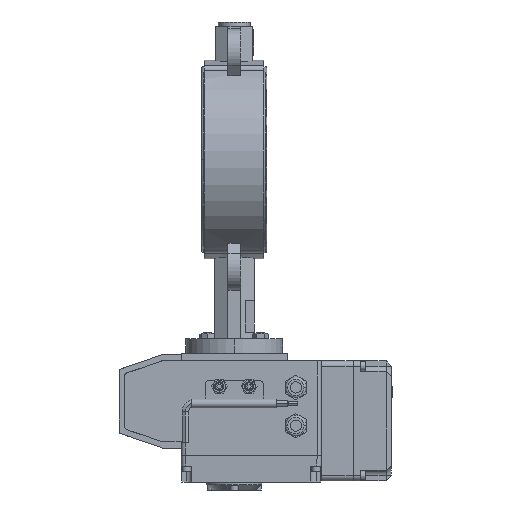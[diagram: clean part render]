
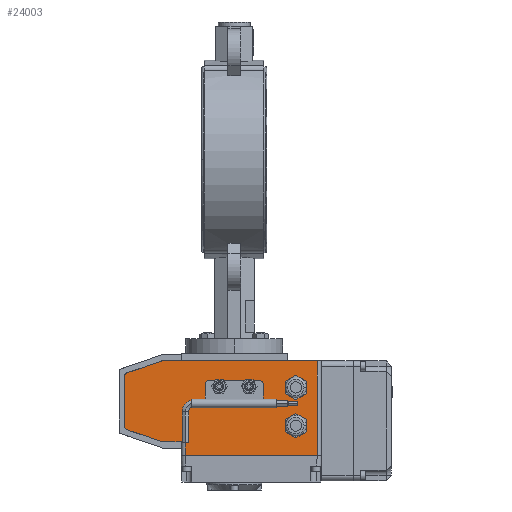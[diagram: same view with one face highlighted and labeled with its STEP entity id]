
A CAD part, left-side view. The second image highlights one B-rep face of the part: STEP entity #24003.
In plain terms, the highlighted planar face has unit normal (-1, 0, 0) as drawn and (0, 0, 1) by its records, which use the part's own axes.
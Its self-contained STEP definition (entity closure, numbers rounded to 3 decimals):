
#18462=CARTESIAN_POINT('',(83.5,35.,0.));
#18463=DIRECTION('',(0.,0.,1.));
#18464=DIRECTION('',(0.324,0.946,0.));
#18465=AXIS2_PLACEMENT_3D('',#18462,#18463,#18464);
#18467=DIRECTION('',(-0.946,0.324,0.));
#18468=VECTOR('',#18467,34.357);
#18469=CARTESIAN_POINT('',(116.973,26.695,0.));
#18470=LINE('',#18469,#18468);
#18471=CARTESIAN_POINT('',(116.,23.857,0.));
#18472=DIRECTION('',(0.,0.,1.));
#18473=DIRECTION('',(1.,0.,0.));
#18474=AXIS2_PLACEMENT_3D('',#18471,#18472,#18473);
#18476=DIRECTION('',(0.,1.,0.));
#18477=VECTOR('',#18476,47.714);
#18478=CARTESIAN_POINT('',(119.,-23.857,0.));
#18479=LINE('',#18478,#18477);
#18480=CARTESIAN_POINT('',(116.,-23.857,0.));
#18481=DIRECTION('',(0.,0.,1.));
#18482=DIRECTION('',(0.324,-0.946,0.));
#18483=AXIS2_PLACEMENT_3D('',#18480,#18481,#18482);
#18485=DIRECTION('',(0.946,0.324,0.));
#18486=VECTOR('',#18485,34.357);
#18487=CARTESIAN_POINT('',(84.473,-37.838,0.));
#18488=LINE('',#18487,#18486);
#18489=CARTESIAN_POINT('',(83.5,-35.,0.));
#18490=DIRECTION('',(0.,0.,1.));
#18491=DIRECTION('',(0.,-1.,0.));
#18492=AXIS2_PLACEMENT_3D('',#18489,#18490,#18491);
#18494=DIRECTION('',(1.,0.,0.));
#18495=VECTOR('',#18494,145.5);
#18496=CARTESIAN_POINT('',(-62.,-38.,0.));
#18497=LINE('',#18496,#18495);
#18498=DIRECTION('',(-1.,0.,0.));
#18499=VECTOR('',#18498,124.);
#18500=CARTESIAN_POINT('',(62.,51.,0.));
#18501=LINE('',#18500,#18499);
#18502=DIRECTION('',(0.,1.,0.));
#18503=VECTOR('',#18502,13.);
#18504=CARTESIAN_POINT('',(62.,38.,0.));
#18505=LINE('',#18504,#18503);
#18506=DIRECTION('',(0.866,-0.5,0.));
#18507=VECTOR('',#18506,11.547);
#18508=CARTESIAN_POINT('',(-52.,-18.774,0.));
#18509=LINE('',#18508,#18507);
#18510=DIRECTION('',(0.866,0.5,0.));
#18511=VECTOR('',#18510,11.547);
#18512=CARTESIAN_POINT('',(-42.,-24.547,0.));
#18513=LINE('',#18512,#18511);
#18514=DIRECTION('',(0.,1.,0.));
#18515=VECTOR('',#18514,11.547);
#18516=CARTESIAN_POINT('',(-32.,-18.774,0.));
#18517=LINE('',#18516,#18515);
#18518=DIRECTION('',(-0.866,0.5,0.));
#18519=VECTOR('',#18518,11.547);
#18520=CARTESIAN_POINT('',(-32.,-7.226,0.));
#18521=LINE('',#18520,#18519);
#18522=DIRECTION('',(-0.866,-0.5,0.));
#18523=VECTOR('',#18522,11.547);
#18524=CARTESIAN_POINT('',(-42.,-1.453,0.));
#18525=LINE('',#18524,#18523);
#18526=DIRECTION('',(0.,-1.,0.));
#18527=VECTOR('',#18526,11.547);
#18528=CARTESIAN_POINT('',(-52.,-7.226,0.));
#18529=LINE('',#18528,#18527);
#18530=DIRECTION('',(0.866,-0.5,0.));
#18531=VECTOR('',#18530,11.547);
#18532=CARTESIAN_POINT('',(-52.,17.226,0.));
#18533=LINE('',#18532,#18531);
#18534=DIRECTION('',(0.866,0.5,0.));
#18535=VECTOR('',#18534,11.547);
#18536=CARTESIAN_POINT('',(-42.,11.453,0.));
#18537=LINE('',#18536,#18535);
#18538=DIRECTION('',(0.,1.,0.));
#18539=VECTOR('',#18538,11.547);
#18540=CARTESIAN_POINT('',(-32.,17.226,0.));
#18541=LINE('',#18540,#18539);
#18542=DIRECTION('',(-0.866,0.5,0.));
#18543=VECTOR('',#18542,11.547);
#18544=CARTESIAN_POINT('',(-32.,28.774,0.));
#18545=LINE('',#18544,#18543);
#18546=DIRECTION('',(-0.866,-0.5,0.));
#18547=VECTOR('',#18546,11.547);
#18548=CARTESIAN_POINT('',(-42.,34.547,0.));
#18549=LINE('',#18548,#18547);
#18550=DIRECTION('',(0.,-1.,0.));
#18551=VECTOR('',#18550,11.547);
#18552=CARTESIAN_POINT('',(-52.,28.774,0.));
#18553=LINE('',#18552,#18551);
#18554=CARTESIAN_POINT('',(2.,-14.,0.));
#18555=DIRECTION('',(0.,0.,1.));
#18556=DIRECTION('',(1.,0.,0.));
#18557=AXIS2_PLACEMENT_3D('',#18554,#18555,#18556);
#18559=CARTESIAN_POINT('',(2.,-14.,0.));
#18560=DIRECTION('',(0.,0.,1.));
#18561=DIRECTION('',(-1.,0.,0.));
#18562=AXIS2_PLACEMENT_3D('',#18559,#18560,#18561);
#18564=CARTESIAN_POINT('',(30.,-14.,0.));
#18565=DIRECTION('',(0.,0.,1.));
#18566=DIRECTION('',(1.,0.,0.));
#18567=AXIS2_PLACEMENT_3D('',#18564,#18565,#18566);
#18569=CARTESIAN_POINT('',(30.,-14.,0.));
#18570=DIRECTION('',(0.,0.,1.));
#18571=DIRECTION('',(-1.,0.,0.));
#18572=AXIS2_PLACEMENT_3D('',#18569,#18570,#18571);
#19364=DIRECTION('',(-1.,0.,0.));
#19365=VECTOR('',#19364,21.5);
#19366=CARTESIAN_POINT('',(83.5,38.,0.));
#19367=LINE('',#19366,#19365);
#19489=DIRECTION('',(0.,-1.,0.));
#19490=VECTOR('',#19489,89.);
#19491=CARTESIAN_POINT('',(-62.,51.,0.));
#19492=LINE('',#19491,#19490);
#22656=CARTESIAN_POINT('',(-62.,-38.,0.));
#22658=VERTEX_POINT('',#22656);
#22661=CARTESIAN_POINT('',(-62.,51.,0.));
#22663=VERTEX_POINT('',#22661);
#22672=CARTESIAN_POINT('',(62.,51.,0.));
#22674=VERTEX_POINT('',#22672);
#22678=CARTESIAN_POINT('',(62.,38.,0.));
#22679=VERTEX_POINT('',#22678);
#22684=CARTESIAN_POINT('',(84.473,37.838,0.));
#22685=CARTESIAN_POINT('',(83.5,38.,0.));
#22686=VERTEX_POINT('',#22684);
#22687=VERTEX_POINT('',#22685);
#22688=CARTESIAN_POINT('',(119.,23.857,0.));
#22689=CARTESIAN_POINT('',(116.973,26.695,0.));
#22690=VERTEX_POINT('',#22688);
#22691=VERTEX_POINT('',#22689);
#22692=CARTESIAN_POINT('',(116.973,-26.695,0.));
#22693=CARTESIAN_POINT('',(119.,-23.857,0.));
#22694=VERTEX_POINT('',#22692);
#22695=VERTEX_POINT('',#22693);
#22696=CARTESIAN_POINT('',(83.5,-38.,0.));
#22697=CARTESIAN_POINT('',(84.473,-37.838,0.));
#22698=VERTEX_POINT('',#22696);
#22699=VERTEX_POINT('',#22697);
#23148=CARTESIAN_POINT('',(-52.,-18.774,0.));
#23149=CARTESIAN_POINT('',(-42.,-24.547,0.));
#23150=VERTEX_POINT('',#23148);
#23151=VERTEX_POINT('',#23149);
#23152=CARTESIAN_POINT('',(-32.,-18.774,0.));
#23153=VERTEX_POINT('',#23152);
#23154=CARTESIAN_POINT('',(-32.,-7.226,0.));
#23155=VERTEX_POINT('',#23154);
#23156=CARTESIAN_POINT('',(-42.,-1.453,0.));
#23157=VERTEX_POINT('',#23156);
#23158=CARTESIAN_POINT('',(-52.,-7.226,0.));
#23159=VERTEX_POINT('',#23158);
#23232=CARTESIAN_POINT('',(-52.,17.226,0.));
#23233=VERTEX_POINT('',#23232);
#23234=CARTESIAN_POINT('',(-42.,11.453,0.));
#23235=VERTEX_POINT('',#23234);
#23236=CARTESIAN_POINT('',(-32.,17.226,0.));
#23237=VERTEX_POINT('',#23236);
#23238=CARTESIAN_POINT('',(-32.,28.774,0.));
#23239=VERTEX_POINT('',#23238);
#23240=CARTESIAN_POINT('',(-42.,34.547,0.));
#23241=VERTEX_POINT('',#23240);
#23242=CARTESIAN_POINT('',(-52.,28.774,0.));
#23243=VERTEX_POINT('',#23242);
#23312=CARTESIAN_POINT('',(6.,-14.,0.));
#23313=CARTESIAN_POINT('',(-2.,-14.,0.));
#23314=VERTEX_POINT('',#23312);
#23315=VERTEX_POINT('',#23313);
#23316=CARTESIAN_POINT('',(34.,-14.,0.));
#23317=CARTESIAN_POINT('',(26.,-14.,0.));
#23318=VERTEX_POINT('',#23316);
#23319=VERTEX_POINT('',#23317);
#23932=CARTESIAN_POINT('',(0.,0.,0.));
#23933=DIRECTION('',(0.,0.,1.));
#23934=DIRECTION('',(1.,0.,0.));
#23935=AXIS2_PLACEMENT_3D('',#23932,#23933,#23934);
#23936=PLANE('',#23935);
#23938=ORIENTED_EDGE('',*,*,#23937,.F.);
#23940=ORIENTED_EDGE('',*,*,#23939,.F.);
#23942=ORIENTED_EDGE('',*,*,#23941,.F.);
#23944=ORIENTED_EDGE('',*,*,#23943,.F.);
#23946=ORIENTED_EDGE('',*,*,#23945,.F.);
#23948=ORIENTED_EDGE('',*,*,#23947,.F.);
#23950=ORIENTED_EDGE('',*,*,#23949,.F.);
#23952=ORIENTED_EDGE('',*,*,#23951,.F.);
#23954=ORIENTED_EDGE('',*,*,#23953,.F.);
#23956=ORIENTED_EDGE('',*,*,#23955,.F.);
#23958=ORIENTED_EDGE('',*,*,#23957,.F.);
#23960=ORIENTED_EDGE('',*,*,#23959,.F.);
#23961=EDGE_LOOP('',(#23938,#23940,#23942,#23944,#23946,#23948,#23950,#23952,
#23954,#23956,#23958,#23960));
#23962=FACE_OUTER_BOUND('',#23961,.F.);
#23964=ORIENTED_EDGE('',*,*,#23963,.T.);
#23966=ORIENTED_EDGE('',*,*,#23965,.T.);
#23968=ORIENTED_EDGE('',*,*,#23967,.T.);
#23970=ORIENTED_EDGE('',*,*,#23969,.T.);
#23972=ORIENTED_EDGE('',*,*,#23971,.T.);
#23974=ORIENTED_EDGE('',*,*,#23973,.T.);
#23975=EDGE_LOOP('',(#23964,#23966,#23968,#23970,#23972,#23974));
#23976=FACE_BOUND('',#23975,.F.);
#23978=ORIENTED_EDGE('',*,*,#23977,.T.);
#23980=ORIENTED_EDGE('',*,*,#23979,.T.);
#23982=ORIENTED_EDGE('',*,*,#23981,.T.);
#23984=ORIENTED_EDGE('',*,*,#23983,.T.);
#23986=ORIENTED_EDGE('',*,*,#23985,.T.);
#23988=ORIENTED_EDGE('',*,*,#23987,.T.);
#23989=EDGE_LOOP('',(#23978,#23980,#23982,#23984,#23986,#23988));
#23990=FACE_BOUND('',#23989,.F.);
#23992=ORIENTED_EDGE('',*,*,#23991,.T.);
#23994=ORIENTED_EDGE('',*,*,#23993,.T.);
#23995=EDGE_LOOP('',(#23992,#23994));
#23996=FACE_BOUND('',#23995,.F.);
#23998=ORIENTED_EDGE('',*,*,#23997,.T.);
#24000=ORIENTED_EDGE('',*,*,#23999,.T.);
#24001=EDGE_LOOP('',(#23998,#24000));
#24002=FACE_BOUND('',#24001,.F.);
#24003=ADVANCED_FACE('',(#23962,#23976,#23990,#23996,#24002),#23936,.T.);
#18466=CIRCLE('',#18465,3.);
#18475=CIRCLE('',#18474,3.);
#18484=CIRCLE('',#18483,3.);
#18493=CIRCLE('',#18492,3.);
#18558=CIRCLE('',#18557,4.);
#18563=CIRCLE('',#18562,4.);
#18568=CIRCLE('',#18567,4.);
#18573=CIRCLE('',#18572,4.);
#23937=EDGE_CURVE('',#22686,#22687,#18466,.T.);
#23939=EDGE_CURVE('',#22691,#22686,#18470,.T.);
#23941=EDGE_CURVE('',#22690,#22691,#18475,.T.);
#23943=EDGE_CURVE('',#22695,#22690,#18479,.T.);
#23945=EDGE_CURVE('',#22694,#22695,#18484,.T.);
#23947=EDGE_CURVE('',#22699,#22694,#18488,.T.);
#23949=EDGE_CURVE('',#22698,#22699,#18493,.T.);
#23951=EDGE_CURVE('',#22658,#22698,#18497,.T.);
#23953=EDGE_CURVE('',#22663,#22658,#19492,.T.);
#23955=EDGE_CURVE('',#22674,#22663,#18501,.T.);
#23957=EDGE_CURVE('',#22679,#22674,#18505,.T.);
#23959=EDGE_CURVE('',#22687,#22679,#19367,.T.);
#23963=EDGE_CURVE('',#23150,#23151,#18509,.T.);
#23965=EDGE_CURVE('',#23151,#23153,#18513,.T.);
#23967=EDGE_CURVE('',#23153,#23155,#18517,.T.);
#23969=EDGE_CURVE('',#23155,#23157,#18521,.T.);
#23971=EDGE_CURVE('',#23157,#23159,#18525,.T.);
#23973=EDGE_CURVE('',#23159,#23150,#18529,.T.);
#23977=EDGE_CURVE('',#23233,#23235,#18533,.T.);
#23979=EDGE_CURVE('',#23235,#23237,#18537,.T.);
#23981=EDGE_CURVE('',#23237,#23239,#18541,.T.);
#23983=EDGE_CURVE('',#23239,#23241,#18545,.T.);
#23985=EDGE_CURVE('',#23241,#23243,#18549,.T.);
#23987=EDGE_CURVE('',#23243,#23233,#18553,.T.);
#23991=EDGE_CURVE('',#23314,#23315,#18558,.T.);
#23993=EDGE_CURVE('',#23315,#23314,#18563,.T.);
#23997=EDGE_CURVE('',#23318,#23319,#18568,.T.);
#23999=EDGE_CURVE('',#23319,#23318,#18573,.T.);
